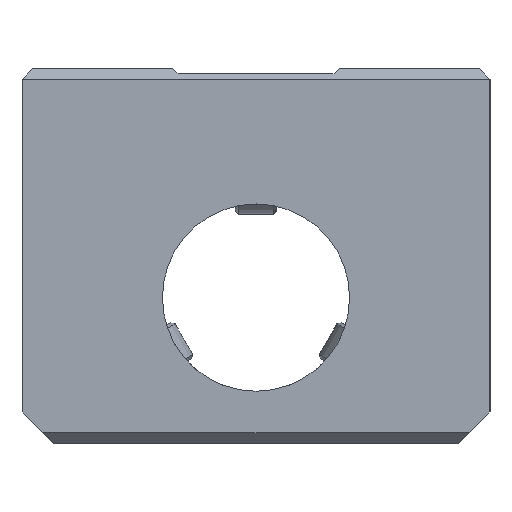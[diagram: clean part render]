
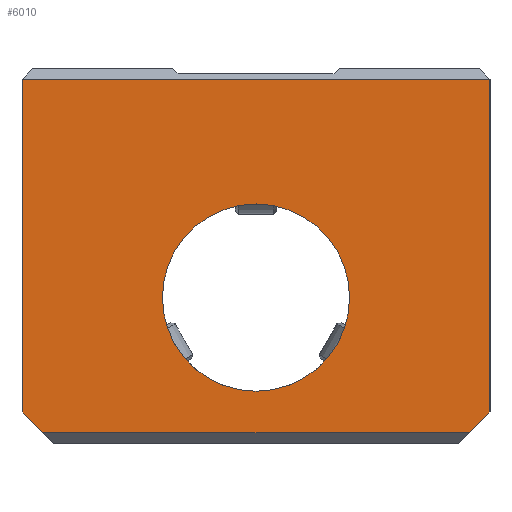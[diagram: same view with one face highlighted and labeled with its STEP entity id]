
A CAD part, left-side view. The second image highlights one B-rep face of the part: STEP entity #6010.
In plain terms, the highlighted planar face has unit normal (-1, 0, 0).
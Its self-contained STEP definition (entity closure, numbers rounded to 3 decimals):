
#3844=CARTESIAN_POINT('',(-45.0,-22.5,21.));
#3845=VERTEX_POINT('',#3844);
#3854=CARTESIAN_POINT('',(-45.0,-22.5,-11.));
#3855=VERTEX_POINT('',#3854);
#3856=CARTESIAN_POINT('',(-45.0,-22.5,21.));
#3857=DIRECTION('',(0.0,0.0,-1.0));
#3858=VECTOR('',#3857,32.0);
#3859=LINE('',#3856,#3858);
#3860=EDGE_CURVE('',#3845,#3855,#3859,.T.);
#4602=CARTESIAN_POINT('',(-45.0,20.5,-13.));
#4603=VERTEX_POINT('',#4602);
#4610=CARTESIAN_POINT('',(-45.0,22.5,-11.));
#4611=VERTEX_POINT('',#4610);
#4612=CARTESIAN_POINT('',(-45.0,20.5,-13.));
#4613=DIRECTION('',(0.0,0.707,0.707));
#4614=VECTOR('',#4613,2.828);
#4615=LINE('',#4612,#4614);
#4616=EDGE_CURVE('',#4603,#4611,#4615,.T.);
#4642=CARTESIAN_POINT('',(-45.0,-20.5,-13.));
#4643=VERTEX_POINT('',#4642);
#4650=CARTESIAN_POINT('',(-45.0,-20.5,-13.));
#4651=DIRECTION('',(0.0,1.0,0.0));
#4652=VECTOR('',#4651,41.0);
#4653=LINE('',#4650,#4652);
#4654=EDGE_CURVE('',#4643,#4603,#4653,.T.);
#4736=CARTESIAN_POINT('',(-45.0,22.5,21.));
#4737=VERTEX_POINT('',#4736);
#4744=CARTESIAN_POINT('',(-45.0,22.5,21.));
#4745=DIRECTION('',(0.0,-1.0,0.0));
#4746=VECTOR('',#4745,45.0);
#4747=LINE('',#4744,#4746);
#4748=EDGE_CURVE('',#4737,#3845,#4747,.T.);
#5017=CARTESIAN_POINT('',(-45.0,-22.5,-11.));
#5018=DIRECTION('',(0.0,0.707,-0.707));
#5019=VECTOR('',#5018,2.828);
#5020=LINE('',#5017,#5019);
#5021=EDGE_CURVE('',#3855,#4643,#5020,.T.);
#5066=CARTESIAN_POINT('',(-45.0,22.5,-11.));
#5067=DIRECTION('',(0.0,0.0,1.0));
#5068=VECTOR('',#5067,32.0);
#5069=LINE('',#5066,#5068);
#5070=EDGE_CURVE('',#4611,#4737,#5069,.T.);
#5949=CARTESIAN_POINT('',(-45.0,9.0,0.));
#5950=VERTEX_POINT('',#5949);
#5951=CARTESIAN_POINT('',(-45.0,0.0,0.));
#5952=DIRECTION('',(1.0,0.0,0.0));
#5953=DIRECTION('',(0.0,-1.0,0.0));
#5954=AXIS2_PLACEMENT_3D('',#5951,#5952,#5953);
#5955=CIRCLE('',#5954,9.0);
#5956=EDGE_CURVE('',#5950,#5950,#5955,.T.);
#5994=CARTESIAN_POINT('',(-45.0,-15.25,21.75));
#5995=DIRECTION('',(1.0,0.0,0.0));
#5996=DIRECTION('',(0.0,0.0,-1.0));
#5997=AXIS2_PLACEMENT_3D('',#5994,#5995,#5996);
#5998=PLANE('',#5997);
#5999=ORIENTED_EDGE('',*,*,#4654,.F.);
#6000=ORIENTED_EDGE('',*,*,#5021,.F.);
#6001=ORIENTED_EDGE('',*,*,#3860,.F.);
#6002=ORIENTED_EDGE('',*,*,#4748,.F.);
#6003=ORIENTED_EDGE('',*,*,#5070,.F.);
#6004=ORIENTED_EDGE('',*,*,#4616,.F.);
#6005=EDGE_LOOP('',(#5999,#6000,#6001,#6002,#6003,#6004));
#6006=FACE_OUTER_BOUND('',#6005,.T.);
#6007=ORIENTED_EDGE('',*,*,#5956,.T.);
#6008=EDGE_LOOP('',(#6007));
#6009=FACE_BOUND('',#6008,.T.);
#6010=ADVANCED_FACE('',(#6006,#6009),#5998,.F.);
